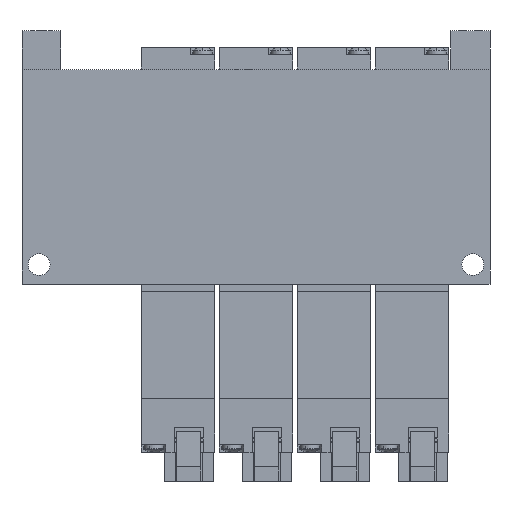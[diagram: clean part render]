
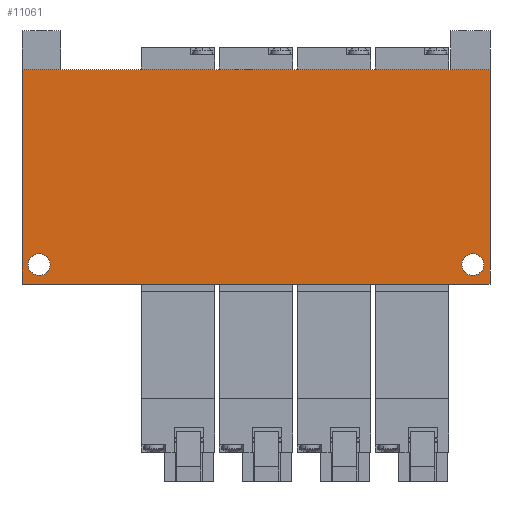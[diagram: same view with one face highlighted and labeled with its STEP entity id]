
A CAD part, front view. The second image highlights one B-rep face of the part: STEP entity #11061.
In plain terms, the highlighted planar face has unit normal (0, -1, 0).
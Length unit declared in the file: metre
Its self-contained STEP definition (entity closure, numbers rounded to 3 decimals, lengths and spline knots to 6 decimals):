
#447 = CIRCLE ( 'NONE', #1837, 0.00225 ) ;
#931 = CARTESIAN_POINT ( 'NONE',  ( 0., -0.01525, 0.0185 ) ) ;
#1051 = EDGE_CURVE ( 'NONE', #6535, #14042, #15161, .T. ) ;
#1137 = AXIS2_PLACEMENT_3D ( 'NONE', #13838, #5845, #15158 ) ;
#1170 = PLANE ( 'NONE',  #16152 ) ;
#1424 = VERTEX_POINT ( 'NONE', #4007 ) ;
#1580 = CARTESIAN_POINT ( 'NONE',  ( -0.0445, -0.01525, -0.01925 ) ) ;
#1779 = EDGE_LOOP ( 'NONE', ( #16523, #12891, #5849, #2906 ) ) ;
#1837 = AXIS2_PLACEMENT_3D ( 'NONE', #3828, #3886, #3989 ) ;
#1851 = EDGE_CURVE ( 'NONE', #14042, #9501, #2471, .T. ) ;
#2116 = ORIENTED_EDGE ( 'NONE', *, *, #7686, .T. ) ;
#2158 = FACE_BOUND ( 'NONE', #11152, .T. ) ;
#2193 = CIRCLE ( 'NONE', #6430, 0.00225 ) ;
#2392 = DIRECTION ( 'NONE',  ( 0., -1., 0. ) ) ;
#2471 = LINE ( 'NONE', #11472, #8748 ) ;
#2497 = DIRECTION ( 'NONE',  ( 0., 0., 1. ) ) ;
#2566 = FACE_OUTER_BOUND ( 'NONE', #1779, .T. ) ;
#2906 = ORIENTED_EDGE ( 'NONE', *, *, #1051, .T. ) ;
#3080 = ORIENTED_EDGE ( 'NONE', *, *, #5954, .T. ) ;
#3228 = CARTESIAN_POINT ( 'NONE',  ( 0.048, -0.01525, -0.0255 ) ) ;
#3800 = CARTESIAN_POINT ( 'NONE',  ( 0.0445, -0.01525, -0.0215 ) ) ;
#3828 = CARTESIAN_POINT ( 'NONE',  ( 0.0445, -0.01525, -0.0215 ) ) ;
#3886 = DIRECTION ( 'NONE',  ( 0., 1., 0. ) ) ;
#3989 = DIRECTION ( 'NONE',  ( 0., 0., 1. ) ) ;
#4007 = CARTESIAN_POINT ( 'NONE',  ( 0.0445, -0.01525, -0.02375 ) ) ;
#4142 = CARTESIAN_POINT ( 'NONE',  ( 0.048, -0.01525, 0.0185 ) ) ;
#4336 = ORIENTED_EDGE ( 'NONE', *, *, #4723, .T. ) ;
#4532 = VERTEX_POINT ( 'NONE', #1580 ) ;
#4723 = EDGE_CURVE ( 'NONE', #4532, #9214, #12165, .T. ) ;
#5127 = DIRECTION ( 'NONE',  ( 0., 0., 1. ) ) ;
#5845 = DIRECTION ( 'NONE',  ( 0., 1., 0. ) ) ;
#5849 = ORIENTED_EDGE ( 'NONE', *, *, #13290, .F. ) ;
#5954 = EDGE_CURVE ( 'NONE', #15687, #1424, #447, .T. ) ;
#6430 = AXIS2_PLACEMENT_3D ( 'NONE', #3800, #13099, #5127 ) ;
#6535 = VERTEX_POINT ( 'NONE', #14067 ) ;
#6740 = ORIENTED_EDGE ( 'NONE', *, *, #10006, .T. ) ;
#7154 = LINE ( 'NONE', #931, #10672 ) ;
#7686 = EDGE_CURVE ( 'NONE', #9214, #4532, #11412, .T. ) ;
#8488 = VECTOR ( 'NONE', #11199, 1. ) ;
#8748 = VECTOR ( 'NONE', #12562, 1. ) ;
#8934 = DIRECTION ( 'NONE',  ( 1., 0., 0. ) ) ;
#9214 = VERTEX_POINT ( 'NONE', #15578 ) ;
#9304 = DIRECTION ( 'NONE',  ( 1., 0., 0. ) ) ;
#9501 = VERTEX_POINT ( 'NONE', #4142 ) ;
#9680 = CARTESIAN_POINT ( 'NONE',  ( 0., -0.01525, -0.0255 ) ) ;
#10006 = EDGE_CURVE ( 'NONE', #1424, #15687, #2193, .T. ) ;
#10486 = VERTEX_POINT ( 'NONE', #14596 ) ;
#10672 = VECTOR ( 'NONE', #8934, 1. ) ;
#11061 = ADVANCED_FACE ( 'NONE', ( #12741, #2158, #2566 ), #1170, .T. ) ;
#11152 = EDGE_LOOP ( 'NONE', ( #4336, #2116 ) ) ;
#11199 = DIRECTION ( 'NONE',  ( 0., 0., 1. ) ) ;
#11412 = CIRCLE ( 'NONE', #12639, 0.00225 ) ;
#11472 = CARTESIAN_POINT ( 'NONE',  ( 0.048, -0.01525, -0.0035 ) ) ;
#12165 = CIRCLE ( 'NONE', #1137, 0.00225 ) ;
#12562 = DIRECTION ( 'NONE',  ( 0., 0., 1. ) ) ;
#12566 = CARTESIAN_POINT ( 'NONE',  ( -0.0445, -0.01525, -0.0215 ) ) ;
#12639 = AXIS2_PLACEMENT_3D ( 'NONE', #12566, #12670, #12727 ) ;
#12670 = DIRECTION ( 'NONE',  ( 0., 1., 0. ) ) ;
#12727 = DIRECTION ( 'NONE',  ( 0., 0., 1. ) ) ;
#12741 = FACE_BOUND ( 'NONE', #16329, .T. ) ;
#12891 = ORIENTED_EDGE ( 'NONE', *, *, #15080, .F. ) ;
#13099 = DIRECTION ( 'NONE',  ( 0., 1., 0. ) ) ;
#13290 = EDGE_CURVE ( 'NONE', #6535, #10486, #15508, .T. ) ;
#13838 = CARTESIAN_POINT ( 'NONE',  ( -0.0445, -0.01525, -0.0215 ) ) ;
#14042 = VERTEX_POINT ( 'NONE', #3228 ) ;
#14067 = CARTESIAN_POINT ( 'NONE',  ( -0.048, -0.01525, -0.0255 ) ) ;
#14596 = CARTESIAN_POINT ( 'NONE',  ( -0.048, -0.01525, 0.0185 ) ) ;
#14745 = VECTOR ( 'NONE', #9304, 1. ) ;
#15080 = EDGE_CURVE ( 'NONE', #10486, #9501, #7154, .T. ) ;
#15130 = CARTESIAN_POINT ( 'NONE',  ( -0.048, -0.01525, -0.0035 ) ) ;
#15158 = DIRECTION ( 'NONE',  ( 0., 0., 1. ) ) ;
#15161 = LINE ( 'NONE', #9680, #14745 ) ;
#15508 = LINE ( 'NONE', #15130, #8488 ) ;
#15578 = CARTESIAN_POINT ( 'NONE',  ( -0.0445, -0.01525, -0.02375 ) ) ;
#15687 = VERTEX_POINT ( 'NONE', #16772 ) ;
#16152 = AXIS2_PLACEMENT_3D ( 'NONE', #17096, #2392, #2497 ) ;
#16329 = EDGE_LOOP ( 'NONE', ( #3080, #6740 ) ) ;
#16523 = ORIENTED_EDGE ( 'NONE', *, *, #1851, .T. ) ;
#16772 = CARTESIAN_POINT ( 'NONE',  ( 0.0445, -0.01525, -0.01925 ) ) ;
#17096 = CARTESIAN_POINT ( 'NONE',  ( 0.048, -0.01525, -0.0255 ) ) ;
